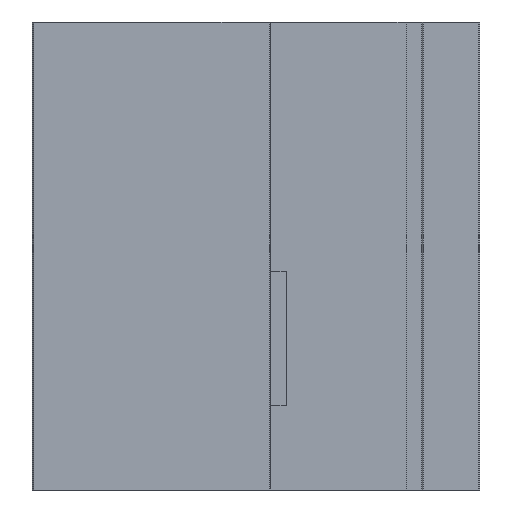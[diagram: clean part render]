
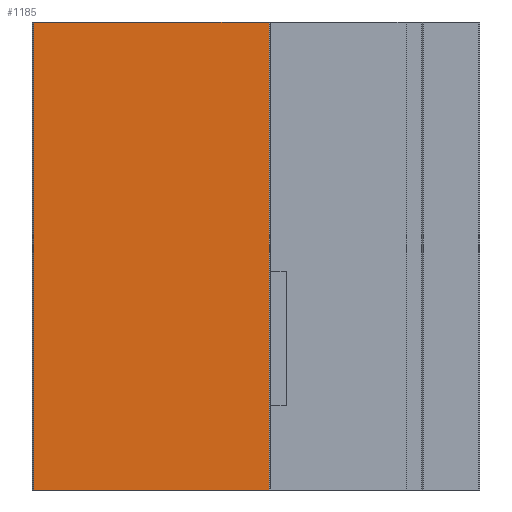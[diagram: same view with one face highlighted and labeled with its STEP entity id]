
A CAD part, front view. The second image highlights one B-rep face of the part: STEP entity #1185.
In plain terms, the highlighted planar face has unit normal (0, -1, 0).
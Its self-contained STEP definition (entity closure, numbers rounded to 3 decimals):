
#769 = EDGE_CURVE( '', #1087, #1251, #1936, .T. );
#825 = EDGE_CURVE( '', #1381, #1087, #2000, .T. );
#1087 = VERTEX_POINT( '', #2295 );
#1185 = ADVANCED_FACE( '', ( #2406 ), #2407, .T. );
#1247 = VERTEX_POINT( '', #2481 );
#1251 = VERTEX_POINT( '', #2486 );
#1293 = EDGE_CURVE( '', #1247, #1251, #2534, .T. );
#1375 = EDGE_CURVE( '', #1381, #1247, #2627, .T. );
#1381 = VERTEX_POINT( '', #2633 );
#1936 = LINE( '', #3305, #3306 );
#2000 = LINE( '', #3397, #3398 );
#2295 = CARTESIAN_POINT( '', ( -5.6, -5., 0. ) );
#2406 = FACE_OUTER_BOUND( '', #3950, .T. );
#2407 = PLANE( '', #3951 );
#2481 = CARTESIAN_POINT( '', ( -22.7, -5., -34. ) );
#2486 = CARTESIAN_POINT( '', ( -5.6, -5., -34. ) );
#2534 = LINE( '', #4107, #4108 );
#2627 = LINE( '', #4223, #4224 );
#2633 = CARTESIAN_POINT( '', ( -22.7, -5., 0. ) );
#3305 = CARTESIAN_POINT( '', ( -5.6, -5., 0. ) );
#3306 = VECTOR( '', #4952, 1. );
#3397 = CARTESIAN_POINT( '', ( -22.7, -5., 0. ) );
#3398 = VECTOR( '', #5052, 1. );
#3950 = EDGE_LOOP( '', ( #5501, #5502, #5503, #5504 ) );
#3951 = AXIS2_PLACEMENT_3D( '', #5505, #5506, #5507 );
#4107 = CARTESIAN_POINT( '', ( -22.7, -5., -34. ) );
#4108 = VECTOR( '', #5681, 1. );
#4223 = CARTESIAN_POINT( '', ( -22.7, -5., 0. ) );
#4224 = VECTOR( '', #5800, 1. );
#4952 = DIRECTION( '', ( 0., 0., -1. ) );
#5052 = DIRECTION( '', ( 1., 0., 0. ) );
#5501 = ORIENTED_EDGE( '', *, *, #1293, .T. );
#5502 = ORIENTED_EDGE( '', *, *, #769, .F. );
#5503 = ORIENTED_EDGE( '', *, *, #825, .F. );
#5504 = ORIENTED_EDGE( '', *, *, #1375, .T. );
#5505 = CARTESIAN_POINT( '', ( -22.7, -5., 0. ) );
#5506 = DIRECTION( '', ( 0., -1., 0. ) );
#5507 = DIRECTION( '', ( -1., 0., 0. ) );
#5681 = DIRECTION( '', ( 1., 0., 0. ) );
#5800 = DIRECTION( '', ( 0., 0., -1. ) );
